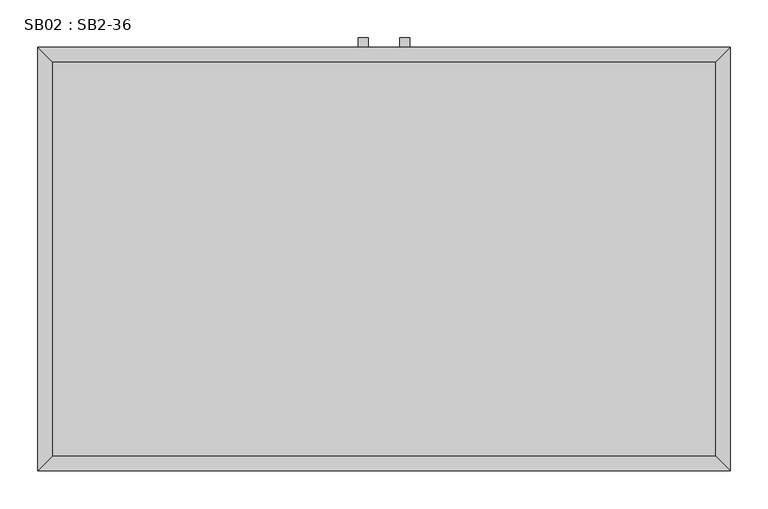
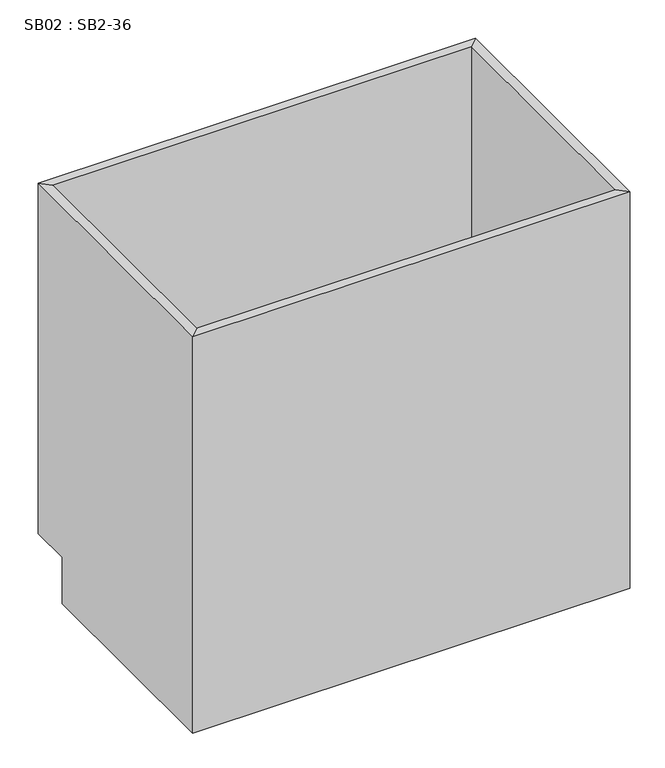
"""IFC4 building model written with IfcOpenShell, lengths in millimetres: furniture geometry, SB02 : SB2-36."""

from ifc_helpers import new_model, si_unit, frame, origin, place, context, project, spatial, polyline, outline, extrude, faceted_brep, source, transform, mapped, element, save


def sb02_sb2_36_312036f5(model_context):
    return source(origin(), model_context, "Body", "SolidModel", [
        extrude(outline(polyline([(-2.2622951, 571.7), (-2.2622951, 559.0), (-14.9622951, 559.0), (-14.9622951, 571.7), (-2.2622951, 571.7)])), frame((0.0, 0.0, 533.8), z_axis=(0.0, 0.0, 1.0), x_axis=(1.0, 0.0, 0.0)), (0.0, 0.0, 1.0), 101.6),
        extrude(outline(polyline([(52.4377049, 571.7), (52.4377049, 559.0), (39.7377049, 559.0), (39.7377049, 571.7), (52.4377049, 571.7)])), frame((0.0, 0.0, 533.8), z_axis=(0.0, 0.0, 1.0), x_axis=(1.0, 0.0, 0.0)), (0.0, 0.0, 1.0), 101.6),
        faceted_brep([(-419.4122951, 472.0, 102.0), (-419.4122951, 19.05, 102.0), (456.8877049, 19.05, 102.0), (456.8877049, 472.0, 102.0), (475.9377049, 0.0, 0.0), (-438.4622951, 0.0, 0.0), (-438.4622951, 472.0, 0.0), (475.9377049, 472.0, 0.0), (475.9377049, 0.0, 876.3), (-438.4622951, 0.0, 876.3), (-438.4622951, 559.0, 876.3), (-438.4622951, 559.0, 102.0), (-438.4622951, 472.0, 102.0), (475.9377049, 472.0, 102.0), (475.9377049, 559.0, 102.0), (475.9377049, 559.0, 876.3), (456.8877049, 539.95, 876.3), (-419.4122951, 539.95, 876.3), (-419.4122951, 539.95, 102.0), (456.8877049, 539.95, 102.0), (-419.4122951, 19.05, 876.3), (456.8877049, 19.05, 876.3)], [[[0, 1, 2, 3]], [[4, 5, 6, 7]], [[4, 8, 9, 5]], [[9, 10, 11, 12, 6, 5]], [[6, 12, 0, 3, 13, 7]], [[7, 13, 14, 15, 8, 4]], [[16, 17, 18, 19]], [[16, 15, 10, 17]], [[15, 14, 11, 10]], [[18, 11, 14, 19]], [[17, 20, 1, 0, 18]], [[10, 9, 20, 17]], [[18, 0, 12, 11]], [[20, 21, 2, 1]], [[9, 8, 21, 20]], [[19, 3, 2, 21, 16]], [[16, 21, 8, 15]], [[14, 13, 3, 19]]]),
        extrude(outline(polyline([(456.8877049, 19.05), (-419.4122951, 19.05), (-419.4122951, 539.95), (456.8877049, 539.95), (456.8877049, 19.05)])), frame((0.0, 0.0, 102.0), z_axis=(0.0, 0.0, 1.0), x_axis=(1.0, 0.0, 0.0)), (0.0, 0.0, 1.0), 19.05),
    ])


if __name__ == "__main__":
    model = new_model("IFC4")
    model_context = context("Model", 3, world=origin())
    ifc_project = project(units=[si_unit("LENGTHUNIT", "METRE", prefix="MILLI")], contexts=[model_context])
    site = spatial("IfcSite", under=ifc_project)
    building = spatial("IfcBuilding", under=site)
    placement = place(None, origin())
    sb02_sb2_36_shape = sb02_sb2_36_312036f5(model_context)
    element("IfcFurniture", 1, ObjectType="SB02 : SB2-36", at=placement, inside=building, context=model_context, shape_type="MappedRepresentation", body=[
        mapped(sb02_sb2_36_shape, transform((0.0, 0.0, 0.0), x_axis=(1.0, 0.0, 0.0), y_axis=(0.0, 1.0, 0.0), z_axis=(0.0, 0.0, 1.0))),
    ])
    save(model, "model.ifc")
